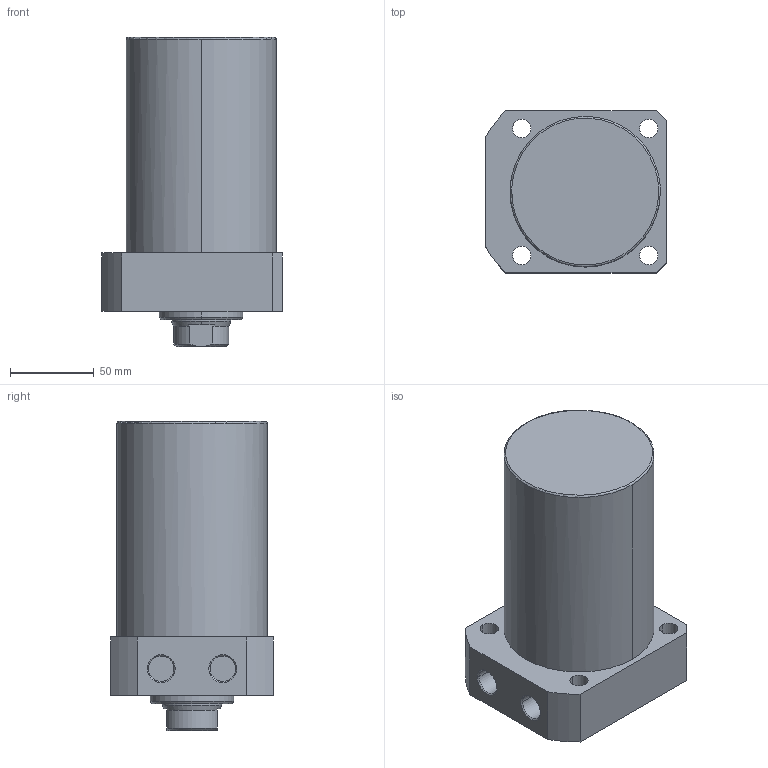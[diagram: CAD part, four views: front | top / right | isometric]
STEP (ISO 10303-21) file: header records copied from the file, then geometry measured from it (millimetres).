
FILE_DESCRIPTION((' '),'2;1');
FILE_NAME( 'TLLR-090CA-085.STEP.stp', '2025-10-24T16:35:17', (' '), ('--- Datakit www.datakit.com---'), ' Datakit CrossCadWare V2024.1 Dec 21 2023', 'Mastercam 2025', ' ');
FILE_SCHEMA(('AUTOMOTIVE_DESIGN { 1 0 10303 214 1 1 1 1 }'));
Length unit declared in the file: millimetre
Products named in the file (1): TLLR-090CA-085
Bounding box: 108 x 97 x 185 mm (x, y, z)
Volume: 1169568 mm3; surface area: 81561.3 mm2
Topology: 1 solids, 1 shells, 63 faces, 177 edges, 122 vertices
Faces by surface type: cylinder 28, plane 19, cone 14, torus 2
Entity records: 2172 total; most frequent: CARTESIAN_POINT 409, DIRECTION 400, ORIENTED_EDGE 350, EDGE_CURVE 175, AXIS2_PLACEMENT_3D 169, VERTEX_POINT 122, CIRCLE 105, EDGE_LOOP 79
